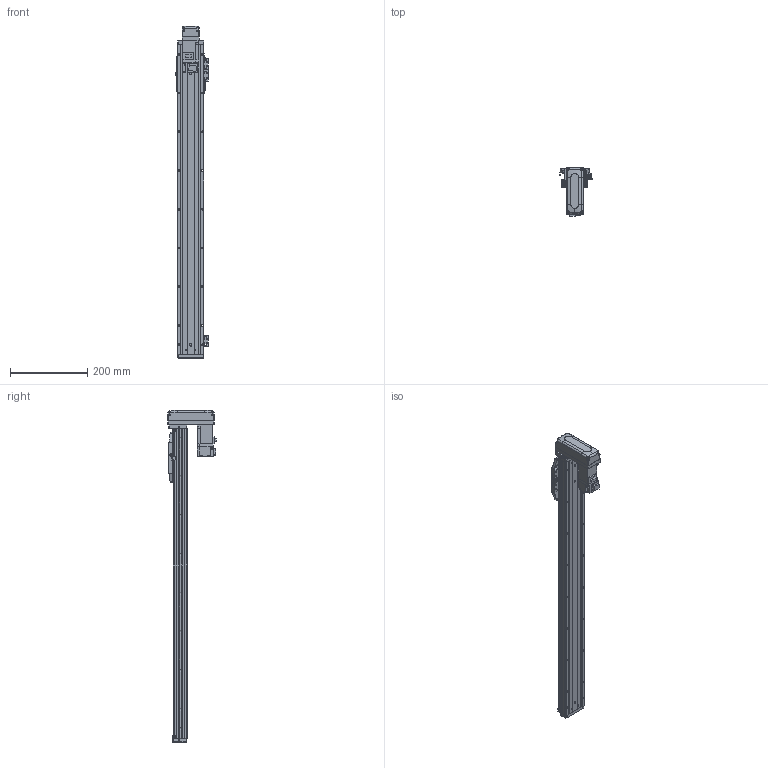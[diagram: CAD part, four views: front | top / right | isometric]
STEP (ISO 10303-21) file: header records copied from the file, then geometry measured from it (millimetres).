
FILE_DESCRIPTION (( 'STEP AP203' ), '1' );
FILE_NAME ('CTHA60-650-BM-M10-C4L.step', '2022-03-19T06:18:31', ( '微软用户' ), ( '微软中国' ), 'SwSTEP 2.0', 'SolidWorks 2020', '' );
FILE_SCHEMA (( 'CONFIG_CONTROL_DESIGN' ));
Length unit declared in the file: millimetre
Products named in the file (18): CTHA60-017; HG-KR13（三菱）; CTHA60-021; CTHA60-002; CTHA60-650-BM-M10-C4L; CTHA60-001_800; GBT 70.1-M4×16; CTHA60-031; CTHA60-004; GBT77-2000 M3×3; CTHA60-006-1; CTHA60-005; GBT 70.1-M3℅6; CTHA60-033; GB¨uT 70.2-M3¡Á6_M3¡Á6; GBT 70.3-M3℅6; EE_SX911P_R; CTHA60-016
Assembly tree (54 placements, depth 2):
  CTHA60-650-BM-M10-C4L
    CTHA60-001_800
    CTHA60-004
    CTHA60-005
    GB¨uT 70.2-M3¡Á6_M3¡Á6  x10
    EE_SX911P_R  x3
    CTHA60-017  x3
    CTHA60-021  x2
    GBT 70.1-M4×16  x10
    GBT77-2000 M3×3  x6
    GBT 70.1-M3℅6  x6
    GBT 70.3-M3℅6  x4
    CTHA60-016  x2
    HG-KR13（三菱）
    CTHA60-002
    CTHA60-031
    CTHA60-006-1
    CTHA60-033
Bounding box: 83.12 x 125.3 x 857 mm (x, y, z)
Volume: 1470858.3 mm3; surface area: 439682.6 mm2
Topology: 56 solids, 56 shells, 2554 faces, 6149 edges, 3793 vertices
Faces by surface type: plane 1473, cylinder 589, cone 344, torus 92, bspline 32, sphere 24
Entity records: 46303 total; most frequent: CARTESIAN_POINT 8922, DIRECTION 7166, ORIENTED_EDGE 7106, EDGE_CURVE 3553, LINE 2526, VECTOR 2526, AXIS2_PLACEMENT_3D 2320, VERTEX_POINT 2252
